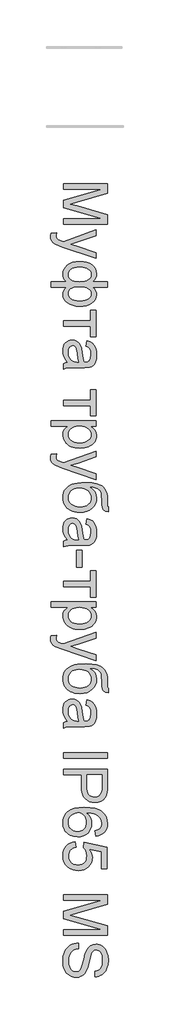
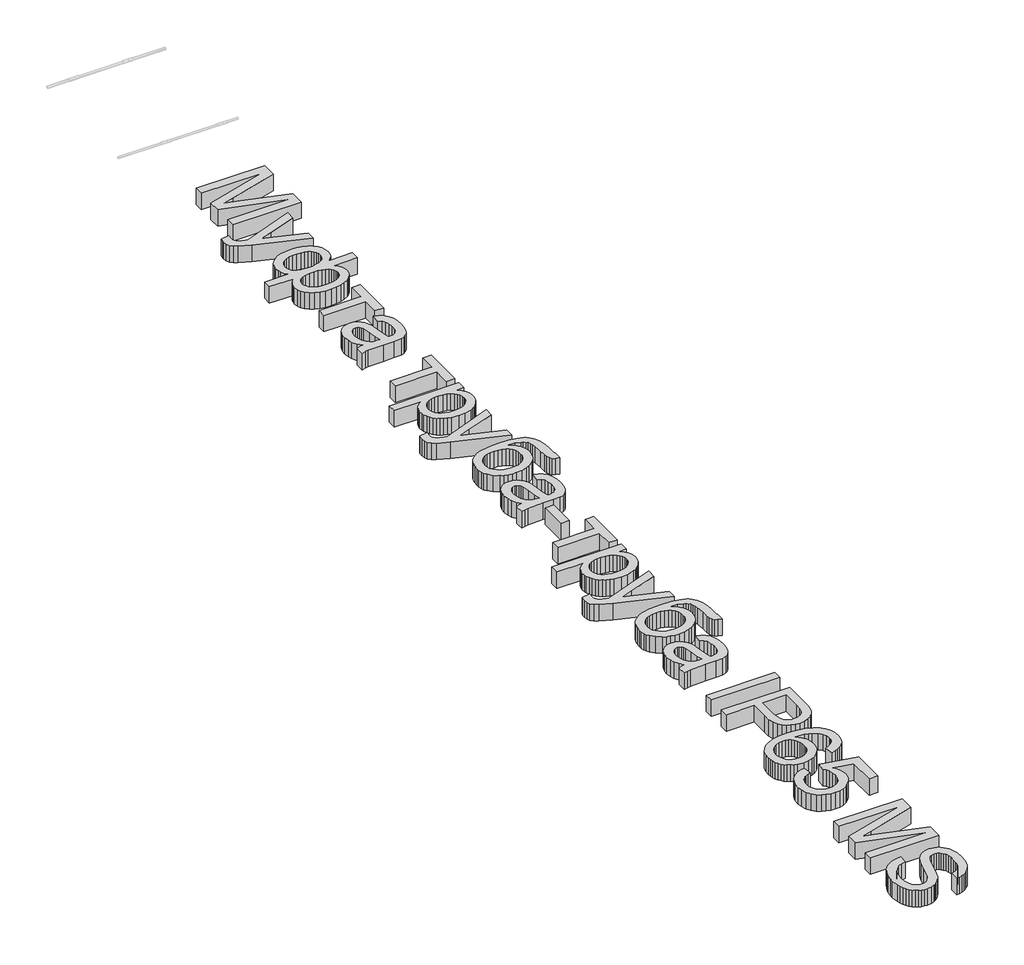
# One storey, part 16 of 33: 1 proxy.
"""IFC4 building model written with IfcOpenShell, lengths in millimetres."""

import ifcopenshell
import ifcopenshell.guid

model = None  # the IFC model being written
_history = None  # IfcOwnerHistory: only IFC2X3 demands one
_inside = {}  # id of a spatial element -> (the spatial element, [elements in it])
_under = {}  # id of a project, library or spatial element -> (it, [spatial elements below it])
_declared = {}  # id of a project -> (the project, [libraries it declares])
_typed = {}  # id of a type object -> (the type object, [elements of that type])
_made_of = {}  # id of a material, layer set ... -> (it, [elements and type objects made of it])


def new_model(schema):
    """Start an empty IFC model of exactly this schema.

    Asked for "IFC4X3", IfcOpenShell would pick the latest addendum, in which some entities
    have other attributes; the version numbers below select the first issue.
    IFC2X3 requires an IfcOwnerHistory on every rooted entity: one is made here for all.
    """
    global model, _history
    if schema == "IFC4X3":
        model = ifcopenshell.file(schema_version=(4, 3, 0, 0))
    else:
        model = ifcopenshell.file(schema=schema)
    _inside.clear()
    _under.clear()
    _declared.clear()
    _typed.clear()
    _made_of.clear()
    _history = None
    if model.schema == "IFC2X3":
        org = make("IfcOrganization", Name="unknown")
        user = make(
            "IfcPersonAndOrganization",
            ThePerson=make("IfcPerson", FamilyName="unknown"),
            TheOrganization=org,
        )
        app = make(
            "IfcApplication",
            ApplicationDeveloper=org,
            Version="unknown",
            ApplicationFullName="unknown",
            ApplicationIdentifier="unknown",
        )
        _history = make(
            "IfcOwnerHistory",
            OwningUser=user,
            OwningApplication=app,
            ChangeAction="ADDED",
            CreationDate=0,
        )
    return model


def make(cls, **values):
    """One entity of the class cls with the attributes given. An attribute that is None is left unset."""
    return model.create_entity(
        cls, **{name: value for name, value in values.items() if value is not None}
    )


def rooted(cls, **values):
    """An entity with a GlobalId (a new one), such as an element, a storey or a relation."""
    return make(cls, GlobalId=ifcopenshell.guid.new(), OwnerHistory=_history, **values)


def si_unit(unit_type, name, prefix=None):
    """IfcSIUnit, for example si_unit("LENGTHUNIT", "METRE", prefix="MILLI")."""
    return make("IfcSIUnit", UnitType=unit_type, Prefix=prefix, Name=name)


def assignment(units):
    """IfcUnitAssignment: the units of a project."""
    return None if units is None else make("IfcUnitAssignment", Units=units)


def point(xyz):
    """IfcCartesianPoint."""
    return None if xyz is None else make("IfcCartesianPoint", Coordinates=xyz)


def direction(xyz):
    """IfcDirection."""
    return None if xyz is None else make("IfcDirection", DirectionRatios=xyz)


def frame(location, z_axis=None, x_axis=None):
    """IfcAxis2Placement3D, a coordinate frame: its origin and axes. An axis left out is left unset."""
    return make(
        "IfcAxis2Placement3D",
        Location=point(location),
        Axis=direction(z_axis),
        RefDirection=direction(x_axis),
    )


def origin():
    """The frame at (0, 0, 0) with its axes left unset."""
    return frame((0.0, 0.0, 0.0))


def origin_with_axes():
    """The frame at (0, 0, 0) with the z axis (0, 0, 1) and the x axis (1, 0, 0) written out."""
    return frame((0.0, 0.0, 0.0), z_axis=(0.0, 0.0, 1.0), x_axis=(1.0, 0.0, 0.0))


def place(relative_to, where):
    """IfcLocalPlacement: puts the frame where relative to a parent placement (None: the world)."""
    return make(
        "IfcLocalPlacement", PlacementRelTo=relative_to, RelativePlacement=where
    )


def context(
    kind, dimensions, precision=None, world=None, true_north=None, identifier=None
):
    """IfcGeometricRepresentationContext, for example the 3D "Model" context."""
    return make(
        "IfcGeometricRepresentationContext",
        ContextIdentifier=identifier,
        ContextType=kind,
        CoordinateSpaceDimension=dimensions,
        Precision=precision,
        WorldCoordinateSystem=world,
        TrueNorth=true_north,
    )


def project(units=None, contexts=None):
    """IfcProject with its units and contexts."""
    return rooted(
        "IfcProject",
        Name="project",
        RepresentationContexts=contexts,
        UnitsInContext=assignment(units),
    )


def spatial(cls, under=None, at=None, **own):
    """A site, building, storey or space (cls), placed at a placement, below another one or the project."""
    s = rooted(cls, ObjectPlacement=at, **own)
    if under is not None:
        _under.setdefault(under.id(), (under, []))[1].append(s)
    return s


def polyline(points):
    """IfcPolyline through the points."""
    return make("IfcPolyline", Points=[point(p) for p in points])


def outline(outer, holes=None, kind="AREA"):
    """IfcArbitraryClosedProfileDef: a profile drawn as a closed curve; with holes, ...WithVoids."""
    if holes is None:
        return make("IfcArbitraryClosedProfileDef", ProfileType=kind, OuterCurve=outer)
    return make(
        "IfcArbitraryProfileDefWithVoids",
        ProfileType=kind,
        OuterCurve=outer,
        InnerCurves=holes,
    )


def extrude(swept, where, along, depth):
    """IfcExtrudedAreaSolid: the profile swept, set in the frame where, extruded along a direction by depth."""
    return make(
        "IfcExtrudedAreaSolid",
        SweptArea=swept,
        Position=where,
        ExtrudedDirection=direction(along),
        Depth=depth,
    )


def shape(context_of_items, identifier, shape_type, items):
    """IfcShapeRepresentation: the items that make up one representation, for example the "Body"."""
    return make(
        "IfcShapeRepresentation",
        ContextOfItems=context_of_items,
        RepresentationIdentifier=identifier,
        RepresentationType=shape_type,
        Items=items,
    )


def made_of(thing, what):
    """Note that an element or type object is made of a material, layer set ...; save() writes the relation."""
    if what is not None:
        _made_of.setdefault(what.id(), (what, []))[1].append(thing)
    return thing


def element(
    cls,
    number,
    at=None,
    inside=None,
    cuts=None,
    type_object=None,
    material=None,
    context=None,
    identifier="Body",
    shape_type=None,
    held_by="IfcProductDefinitionShape",
    body=None,
    shapes=None,
    **own,
):
    """One element of the class cls, such as IfcWall. Its Tag is "e" and its number.

    at: its placement. inside: the storey or other place that contains it. cuts: it is an
    opening in that element (IfcRelVoidsElement). A single representation is given by context,
    identifier, shape_type and body (its items); several are given by shapes. held_by: the class
    of the entity that holds the representations. save() writes the other relations.
    """
    e = rooted(cls, Tag="e%d" % number, ObjectPlacement=at, **own)
    if body is not None:
        shapes = [shape(context, identifier, shape_type, body)]
    if shapes is not None:
        e.Representation = make(held_by, Representations=shapes)
    if inside is not None:
        _inside.setdefault(inside.id(), (inside, []))[1].append(e)
    if cuts is not None:
        rooted(
            "IfcRelVoidsElement", RelatingBuildingElement=cuts, RelatedOpeningElement=e
        )
    if type_object is not None:
        _typed.setdefault(type_object.id(), (type_object, []))[1].append(e)
    return made_of(e, material)


def aggregate(whole, parts):
    """IfcRelAggregates: a whole, such as a stair, and the parts it consists of."""
    return rooted("IfcRelAggregates", RelatingObject=whole, RelatedObjects=parts)


def save(model, path):
    """Write the relations noted so far, then the file.

    IfcRelAggregates (storeys below a building ...), IfcRelContainedInSpatialStructure (elements
    in a storey), IfcRelDefinesByType, IfcRelAssociatesMaterial and IfcRelDeclares: one each for
    every whole, place, type object, material and project.
    """
    for whole, parts in _under.values():
        aggregate(whole, parts)
    for where, things in _inside.values():
        rooted(
            "IfcRelContainedInSpatialStructure",
            RelatedElements=things,
            RelatingStructure=where,
        )
    for kind, things in _typed.values():
        rooted("IfcRelDefinesByType", RelatedObjects=things, RelatingType=kind)
    for what, things in _made_of.values():
        rooted("IfcRelAssociatesMaterial", RelatedObjects=things, RelatingMaterial=what)
    for by, libraries in _declared.values():
        rooted("IfcRelDeclares", RelatingContext=by, RelatedDefinitions=libraries)
    model.write(path)


model = new_model("IFC4")

# Units and contexts
model_context = context("Model", 3, world=origin())
ifc_project = project(units=[si_unit("LENGTHUNIT", "METRE", prefix="MILLI")], contexts=[model_context])

# Site, building, storey
site = spatial("IfcSite", under=ifc_project)
building = spatial("IfcBuilding", under=site)
storey = spatial("IfcBuildingStorey", under=building, Name="Уровень 1", Elevation=0.0)

# Proxy
placement = place(None, origin())
element("IfcBuildingElementProxy", 1, Name="Надпись на модели 1", ObjectType="Надпись на модели 1", at=placement, inside=storey, context=model_context, shape_type="SweptSolid", body=[
    extrude(outline(polyline([(18324.4625724, -797.7209838), (18915.2318032, -797.7209838), (18915.2318032, -924.7882915), (18498.8375724, -1045.6536761), (18411.8664186, -1070.0286761), (18506.0491109, -1096.4229069), (18915.2318032, -1215.2690607), (18915.2318032, -1342.3363684), (18324.4625724, -1342.3363684), (18324.4625724, -1268.4902146), (18841.3856493, -1268.4902146), (18324.4625724, -1120.0767531), (18324.4625724, -1019.9805992), (18841.3856493, -871.5671377), (18324.4625724, -871.5671377), (18324.4625724, -797.7209838)])), origin_with_axes(), (0.0, 0.0, 1.0), 150.0),
    extrude(outline(polyline([(18158.3087262, -1462.3363684), (18229.4144955, -1453.1055992), (18222.9241109, -1490.6055992), (18224.9613705, -1510.3291569), (18231.0731493, -1525.6536761), (18240.8267551, -1537.5887723), (18253.7894955, -1547.1440607), (18308.1644955, -1567.3363684), (18326.0491109, -1573.1055992), (18758.3087262, -1416.1825223), (18758.3087262, -1494.0671377), (18517.4433416, -1577.2882915), (18421.0971878, -1606.2786761), (18506.1933416, -1635.2690607), (18758.3087262, -1720.7979069), (18758.3087262, -1798.1055992), (18314.077957, -1647.0959838), (18217.7318032, -1607.8652146), (18186.9745916, -1587.78108), (18165.6644955, -1565.0286761), (18153.2245916, -1538.5983877), (18149.077957, -1507.4805992), (18151.3856493, -1486.0983877), (18158.3087262, -1462.3363684)])), origin_with_axes(), (0.0, 0.0, 1.0), 150.0),
    extrude(outline(polyline([(18915.2318032, -2108.4902146), (18915.2318032, -2182.3363684), (18716.6260339, -2182.3363684), (18739.0358897, -2204.7462242), (18754.9193032, -2229.2834838), (18764.3844474, -2255.8399742), (18767.5394955, -2284.3075223), (18763.5280772, -2318.4947218), (18751.4938224, -2348.9409357), (18731.4367311, -2375.6461641), (18703.3568032, -2398.6104069), (18669.1921397, -2417.0674381), (18630.8808416, -2430.2510319), (18588.4229089, -2438.1611881), (18541.8183416, -2440.7979069), (18493.4875123, -2437.9583636), (18450.0334859, -2429.4397338), (18411.4562623, -2415.2420175), (18377.7558416, -2395.3652146), (18350.4015748, -2371.2696617), (18330.8628128, -2344.4156954), (18319.1395556, -2314.8033156), (18315.2318032, -2282.4325223), (18317.0346878, -2260.0406954), (18322.4433416, -2237.2882915), (18335.8928609, -2212.0839646), (18361.8183416, -2182.3363684), (18158.3087262, -2182.3363684), (18158.3087262, -2108.4902146), (18361.8183416, -2108.4902146), (18341.4818032, -2086.0262723), (18326.9144955, -2061.3267531), (18318.1524762, -2034.4637723), (18315.2318032, -2005.5094454), (18318.9637743, -1973.5262723), (18330.1596878, -1943.6344454), (18348.8195436, -1915.8339646), (18374.9433416, -1890.12483), (18408.0172599, -1868.5443011), (18447.5274762, -1853.1296377), (18493.4739907, -1843.8808396), (18545.8568032, -1840.7979069), (18591.0461061, -1843.5878708), (18632.4313224, -1851.9577627), (18670.0124522, -1865.9075824), (18703.7894955, -1885.43733), (18731.6801205, -1909.6816208), (18751.6019955, -1937.7750704), (18763.5551205, -1969.7176785), (18767.5394955, -2005.5094454), (18764.3844474, -2035.5995896), (18754.9193032, -2062.6969454), (18739.0358897, -2086.9457434), (18716.6260339, -2108.4902146), (18915.2318032, -2108.4902146)]), holes=[polyline([(18540.0875724, -2181.9036761), (18499.0403969, -2183.4406353), (18465.3219474, -2188.0515127), (18438.9322238, -2195.7363083), (18419.8712262, -2206.4950223), (18406.399171, -2219.570443), (18396.7762743, -2234.2053588), (18391.0025363, -2250.3997699), (18389.077957, -2268.1536761), (18391.4442431, -2287.881741), (18398.5431012, -2306.1043973), (18410.3745315, -2322.8216449), (18426.9385339, -2338.0334838), (18448.4875123, -2350.6852266), (18475.2738705, -2359.7221857), (18507.2976085, -2365.1443612), (18544.5587262, -2366.9517531), (18579.8051205, -2365.2840848), (18610.2558416, -2360.28108), (18635.9108897, -2351.9427386), (18656.7702647, -2340.2690607), (18672.9241109, -2325.9812002), (18684.4625724, -2309.8003107), (18691.3856493, -2291.7263925), (18693.6933416, -2271.7594454), (18691.2909979, -2250.7873901), (18684.0839666, -2232.5827627), (18672.0722479, -2217.1455631), (18655.2558416, -2204.4757915), (18633.6437623, -2194.600491), (18607.2450243, -2187.546705), (18576.0596277, -2183.3144333), (18540.0875724, -2181.9036761)]), polyline([(18547.4433416, -1914.6440607), (18508.2756734, -1916.4920175), (18475.0034378, -1922.0358877), (18447.6266349, -1931.2756713), (18426.1452647, -1944.2113684), (18409.9283176, -1959.8874502), (18398.3447839, -1977.3483877), (18391.3946637, -1996.5941809), (18389.077957, -2017.62483), (18391.3811421, -2039.1107074), (18398.2906974, -2057.702955), (18409.8066229, -2073.4015728), (18425.9289186, -2086.2065607), (18446.6575844, -2096.1449622), (18471.9926205, -2103.2438204), (18501.9340267, -2107.5031353), (18536.4818032, -2108.9229069), (18573.3282575, -2107.4310199), (18605.2618512, -2102.9553588), (18632.2825844, -2095.4959237), (18654.390457, -2085.0527146), (18671.585469, -2071.5986881), (18683.8676205, -2055.1068011), (18691.2369113, -2035.5770535), (18693.6933416, -2013.0094454), (18691.2955051, -1992.2402146), (18684.1019955, -1973.4902146), (18672.1128128, -1956.7594454), (18655.327957, -1942.0479069), (18634.1981493, -1930.0587242), (18609.1741109, -1921.4950223), (18580.2558416, -1916.3568011), (18547.4433416, -1914.6440607)])]), origin_with_axes(), (0.0, 0.0, 1.0), 150.0),
    extrude(outline(polyline([(18758.3087262, -2496.1825223), (18758.3087262, -2846.9517531), (18684.4625724, -2846.9517531), (18684.4625724, -2708.4902146), (18324.4625724, -2708.4902146), (18324.4625724, -2634.6440607), (18684.4625724, -2634.6440607), (18684.4625724, -2496.1825223), (18758.3087262, -2496.1825223)])), origin_with_axes(), (0.0, 0.0, 1.0), 150.0),
    extrude(outline(polyline([(18379.8471878, -3188.4902146), (18349.5947839, -3153.2077627), (18329.7991109, -3116.8796377), (18318.8736301, -3078.6765127), (18315.2318032, -3037.7690607), (18317.422308, -3004.8889526), (18323.9938224, -2976.0563204), (18334.9463464, -2951.2711641), (18350.2798801, -2930.5334838), (18369.0208657, -2914.1587843), (18390.1957455, -2902.4625704), (18413.8045195, -2895.444842), (18439.8471878, -2893.1055992), (18470.4601686, -2896.6392531), (18498.2606493, -2907.2402146), (18522.0587262, -2923.5923781), (18540.6644955, -2944.3796377), (18554.7269955, -2968.8087242), (18564.8952647, -2996.0863684), (18576.0010339, -3059.9805992), (18587.6837262, -3135.4854069), (18601.3856493, -3188.0575223), (18617.827957, -3188.4902146), (18650.7846878, -3183.40608), (18662.9902166, -3177.0509117), (18672.3471878, -3168.1536761), (18681.6861301, -3152.7750704), (18688.3568032, -3134.0430992), (18693.6933416, -3086.5190607), (18690.1416589, -3042.5286761), (18679.4866109, -3011.8075223), (18659.781082, -2990.8580031), (18629.077957, -2976.1825223), (18638.3087262, -2902.3363684), (18678.6933416, -2915.1548781), (18710.4241109, -2934.2834838), (18734.6909378, -2961.5070415), (18752.6837262, -2998.6104069), (18763.8255532, -3043.9890127), (18767.5394955, -3096.0382915), (18764.2582455, -3145.9601665), (18754.4144955, -3185.5334838), (18739.6128128, -3215.3712242), (18721.4577647, -3236.0863684), (18699.0118512, -3249.8243492), (18671.3375724, -3258.7305992), (18606.7221878, -3262.3363684), (18514.8471878, -3262.3363684), (18386.5539186, -3266.0863684), (18354.8411782, -3271.6392531), (18324.4625724, -3280.7979069), (18324.4625724, -3206.9517531), (18350.1356493, -3195.12483), (18379.8471878, -3188.4902146)]), holes=[polyline([(18527.5394955, -3188.4902146), (18515.2438224, -3138.87483), (18504.8952647, -3069.3555992), (18492.9241109, -3005.8219454), (18484.7390147, -2989.2894934), (18473.452957, -2977.0479069), (18459.9313224, -2969.4757915), (18445.0394955, -2966.9517531), (18423.0803609, -2972.4505511), (18405.0875724, -2988.9469454), (18393.0803609, -3016.0803588), (18389.077957, -3053.4902146), (18393.4950243, -3093.1536761), (18406.7462262, -3128.2017531), (18426.2714666, -3156.6152146), (18449.5106493, -3176.37483), (18473.452957, -3185.1368492), (18506.6260339, -3188.0575223), (18527.5394955, -3188.4902146)])]), origin_with_axes(), (0.0, 0.0, 1.0), 150.0),
    extrude(outline(polyline([(18758.3087262, -3557.7209838), (18758.3087262, -3908.4902146), (18684.4625724, -3908.4902146), (18684.4625724, -3770.0286761), (18324.4625724, -3770.0286761), (18324.4625724, -3696.1825223), (18684.4625724, -3696.1825223), (18684.4625724, -3557.7209838), (18758.3087262, -3557.7209838)])), origin_with_axes(), (0.0, 0.0, 1.0), 150.0),
    extrude(outline(polyline([(18158.3087262, -3973.1055992), (18758.3087262, -3973.1055992), (18758.3087262, -4046.9517531), (18685.9048801, -4046.9517531), (18721.6200243, -4071.0382915), (18747.1308416, -4098.0094454), (18762.437332, -4129.4517531), (18767.5394955, -4166.9517531), (18765.7546397, -4192.7059598), (18760.4000724, -4216.8916569), (18751.4757936, -4239.5088444), (18738.9818032, -4260.5575223), (18723.2426205, -4279.577955), (18704.5827647, -4296.1104069), (18683.0022359, -4310.1548781), (18658.5010339, -4321.7113684), (18604.0899762, -4337.1801184), (18544.702957, -4342.3363684), (18481.5479089, -4336.5130511), (18452.4718873, -4329.2339045), (18425.0635339, -4319.0430992), (18400.0394955, -4306.0803588), (18378.1164186, -4290.4854069), (18359.2943032, -4272.2582434), (18343.5731493, -4251.3988684), (18331.1738104, -4228.9304189), (18322.3171397, -4205.8760319), (18317.0031373, -4182.2357074), (18315.2318032, -4158.0094454), (18319.9733897, -4124.0611281), (18334.1981493, -4093.7546377), (18355.6705051, -4067.8111281), (18382.1548801, -4046.9517531), (18158.3087262, -4046.9517531), (18158.3087262, -3973.1055992)]), holes=[polyline([(18537.9241109, -4046.9517531), (18502.3351686, -4048.9484478), (18471.7221878, -4054.9385319), (18446.0851686, -4064.9220055), (18425.4241109, -4078.8988684), (18409.5226686, -4095.7242891), (18398.1644955, -4114.2534357), (18391.3495916, -4134.4863083), (18389.077957, -4156.4229069), (18391.4307214, -4178.6750103), (18398.4890147, -4199.2774742), (18410.2528368, -4218.2302987), (18426.7221878, -4235.5334838), (18448.1314426, -4249.9520535), (18474.7149762, -4260.2510319), (18506.4727887, -4266.4304189), (18543.4048801, -4268.4902146), (18578.687332, -4266.4799982), (18609.2462262, -4260.4493492), (18635.0815628, -4250.3982675), (18656.1933416, -4236.3267531), (18672.5995916, -4219.4607675), (18684.3183416, -4201.0262723), (18691.3495916, -4181.0232675), (18693.6933416, -4159.4517531), (18691.2008537, -4137.9478468), (18683.7233897, -4117.7149742), (18671.2609498, -4098.7531353), (18653.8135339, -4081.06233), (18631.6155171, -4066.1389526), (18604.9012743, -4055.4793973), (18573.6708056, -4049.0836641), (18537.9241109, -4046.9517531)])]), origin_with_axes(), (0.0, 0.0, 1.0), 150.0),
    extrude(outline(polyline([(18158.3087262, -4425.4132915), (18229.4144955, -4416.1825223), (18222.9241109, -4453.6825223), (18224.9613705, -4473.40608), (18231.0731493, -4488.7305992), (18240.8267551, -4500.6656954), (18253.7894955, -4510.2209838), (18308.1644955, -4530.4132915), (18326.0491109, -4536.1825223), (18758.3087262, -4379.2594454), (18758.3087262, -4457.1440607), (18517.4433416, -4540.3652146), (18421.0971878, -4569.3555992), (18506.1933416, -4598.3459838), (18758.3087262, -4683.87483), (18758.3087262, -4761.1825223), (18314.077957, -4610.1729069), (18217.7318032, -4570.9421377), (18186.9745916, -4550.8580031), (18165.6644955, -4528.1055992), (18153.2245916, -4501.6753107), (18149.077957, -4470.5575223), (18151.3856493, -4449.1753107), (18158.3087262, -4425.4132915)])), origin_with_axes(), (0.0, 0.0, 1.0), 150.0),
    extrude(outline(polyline([(18924.4625724, -5126.9517531), (18924.4625724, -5191.5671377), (18889.3604089, -5184.5719454), (18866.8423801, -5172.5286761), (18853.5190628, -5155.8339646), (18846.0010339, -5134.8844454), (18842.5394955, -5100.7378107), (18841.3856493, -5044.4517531), (18837.1308416, -4969.3616088), (18831.812332, -4942.4580631), (18824.3664186, -4922.6488684), (18814.5767551, -4907.5316809), (18802.2269955, -4894.7041569), (18787.3171397, -4884.1662963), (18769.8471878, -4875.9180992), (18726.9745916, -4864.8664165), (18673.3568032, -4860.12483), (18714.6068032, -4889.8183396), (18744.0298801, -4924.0911761), (18761.6620916, -4962.9793973), (18767.5394955, -5006.5190607), (18763.8030171, -5046.7504309), (18752.593582, -5083.3580031), (18733.9111902, -5116.3417771), (18707.7558416, -5145.7017531), (18675.227296, -5169.8063204), (18637.4253128, -5187.0238684), (18594.3498921, -5197.3543973), (18546.0010339, -5200.7979069), (18509.0148561, -5199.0896737), (18475.5082455, -5193.9649742), (18445.4812022, -5185.4238083), (18418.9337262, -5173.4661761), (18374.9613705, -5143.5923781), (18342.2750724, -5108.6344454), (18330.4436421, -5088.1897338), (18321.9926205, -5064.3555992), (18316.9220075, -5037.1320415), (18315.2318032, -5006.5190607), (18317.4087863, -4971.1058997), (18323.9397359, -4939.8664165), (18334.8246517, -4912.8006112), (18350.0635339, -4889.9084838), (18368.6963464, -4870.3156353), (18389.7630532, -4853.1476665), (18413.2636541, -4838.4045776), (18439.1981493, -4826.0863684), (18471.3841469, -4816.3688204), (18513.6392551, -4809.4277146), (18565.9634738, -4805.2630511), (18628.3568032, -4803.87483), (18706.1107094, -4807.3769333), (18770.0455051, -4817.8832434), (18820.1611902, -4835.3937603), (18840.0368663, -4846.7755962), (18856.4577647, -4859.9084838), (18882.1714065, -4891.6888324), (18900.5382936, -4930.9962242), (18911.5584258, -4977.8306593), (18915.2318032, -5032.1921377), (18916.890457, -5114.4036761), (18919.6128128, -5122.4445415), (18924.4625724, -5126.9517531)]), holes=[polyline([(18548.3087262, -5126.9517531), (18578.8090267, -5124.9505511), (18606.4156974, -5118.9469454), (18631.1287383, -5108.9409357), (18652.9481493, -5094.9325223), (18670.774171, -5077.2822819), (18683.5070436, -5056.3507915), (18691.1467671, -5032.1380511), (18693.6933416, -5004.6440607), (18691.0025363, -4975.9511521), (18682.9301205, -4950.7378107), (18669.476094, -4929.0040367), (18650.640457, -4910.74983), (18627.3066229, -4896.2997098), (18600.3580051, -4885.9781954), (18569.7946037, -4879.7852867), (18535.6164186, -4877.7209838), (18502.1503729, -4880.0016329), (18472.8580051, -4886.84358), (18447.7393152, -4898.2468252), (18426.7943032, -4914.2113684), (18410.2934017, -4933.5202627), (18398.5070436, -4954.9565607), (18391.4352287, -4978.5202627), (18389.077957, -5004.2113684), (18391.80482, -5030.2540367), (18399.9854089, -5053.71858), (18413.6197238, -5074.6049982), (18432.7077647, -5092.9132915), (18456.2940027, -5107.8051184), (18483.4229089, -5118.4421377), (18514.0944835, -5124.8243492), (18548.3087262, -5126.9517531)])]), origin_with_axes(), (0.0, 0.0, 1.0), 150.0),
    extrude(outline(polyline([(18379.8471878, -5570.0286761), (18349.5947839, -5534.7462242), (18329.7991109, -5498.4180992), (18318.8736301, -5460.2149742), (18315.2318032, -5419.3075223), (18317.422308, -5386.4274141), (18323.9938224, -5357.5947819), (18334.9463464, -5332.8096256), (18350.2798801, -5312.0719454), (18369.0208657, -5295.6972458), (18390.1957455, -5284.0010319), (18413.8045195, -5276.9833035), (18439.8471878, -5274.6440607), (18470.4601686, -5278.1777146), (18498.2606493, -5288.7786761), (18522.0587262, -5305.1308396), (18540.6644955, -5325.9180992), (18554.7269955, -5350.3471857), (18564.8952647, -5377.62483), (18576.0010339, -5441.5190607), (18587.6837262, -5517.0238684), (18601.3856493, -5569.5959838), (18617.827957, -5570.0286761), (18650.7846878, -5564.9445415), (18662.9902166, -5558.5893732), (18672.3471878, -5549.6921377), (18681.6861301, -5534.3135319), (18688.3568032, -5515.5815607), (18693.6933416, -5468.0575223), (18690.1416589, -5424.0671377), (18679.4866109, -5393.3459838), (18659.781082, -5372.3964646), (18629.077957, -5357.7209838), (18638.3087262, -5283.87483), (18678.6933416, -5296.6933396), (18710.4241109, -5315.8219454), (18734.6909378, -5343.0455031), (18752.6837262, -5380.1488684), (18763.8255532, -5425.5274742), (18767.5394955, -5477.5767531), (18764.2582455, -5527.4986281), (18754.4144955, -5567.0719454), (18739.6128128, -5596.9096857), (18721.4577647, -5617.62483), (18699.0118512, -5631.3628107), (18671.3375724, -5640.2690607), (18606.7221878, -5643.87483), (18514.8471878, -5643.87483), (18386.5539186, -5647.62483), (18354.8411782, -5653.1777146), (18324.4625724, -5662.3363684), (18324.4625724, -5588.4902146), (18350.1356493, -5576.6632915), (18379.8471878, -5570.0286761)]), holes=[polyline([(18527.5394955, -5570.0286761), (18515.2438224, -5520.4132915), (18504.8952647, -5450.8940607), (18492.9241109, -5387.3604069), (18484.7390147, -5370.827955), (18473.452957, -5358.5863684), (18459.9313224, -5351.0142531), (18445.0394955, -5348.4902146), (18423.0803609, -5353.9890127), (18405.0875724, -5370.4854069), (18393.0803609, -5397.6188204), (18389.077957, -5435.0286761), (18393.4950243, -5474.6921377), (18406.7462262, -5509.7402146), (18426.2714666, -5538.1536761), (18449.5106493, -5557.9132915), (18473.452957, -5566.6753107), (18506.6260339, -5569.5959838), (18527.5394955, -5570.0286761)])]), origin_with_axes(), (0.0, 0.0, 1.0), 150.0),
    extrude(outline(polyline([(18499.8471878, -5708.4902146), (18573.6933416, -5708.4902146), (18573.6933416, -5939.2594454), (18499.8471878, -5939.2594454), (18499.8471878, -5708.4902146)])), origin_with_axes(), (0.0, 0.0, 1.0), 150.0),
    extrude(outline(polyline([(18758.3087262, -5985.4132915), (18758.3087262, -6336.1825223), (18684.4625724, -6336.1825223), (18684.4625724, -6197.7209838), (18324.4625724, -6197.7209838), (18324.4625724, -6123.87483), (18684.4625724, -6123.87483), (18684.4625724, -5985.4132915), (18758.3087262, -5985.4132915)])), origin_with_axes(), (0.0, 0.0, 1.0), 150.0),
    extrude(outline(polyline([(18158.3087262, -6400.7979069), (18758.3087262, -6400.7979069), (18758.3087262, -6474.6440607), (18685.9048801, -6474.6440607), (18721.6200243, -6498.7305992), (18747.1308416, -6525.7017531), (18762.437332, -6557.1440607), (18767.5394955, -6594.6440607), (18765.7546397, -6620.3982675), (18760.4000724, -6644.5839646), (18751.4757936, -6667.2011521), (18738.9818032, -6688.24983), (18723.2426205, -6707.2702627), (18704.5827647, -6723.8027146), (18683.0022359, -6737.8471857), (18658.5010339, -6749.4036761), (18604.0899762, -6764.8724261), (18544.702957, -6770.0286761), (18481.5479089, -6764.2053588), (18452.4718873, -6756.9262122), (18425.0635339, -6746.7354069), (18400.0394955, -6733.7726665), (18378.1164186, -6718.1777146), (18359.2943032, -6699.9505511), (18343.5731493, -6679.0911761), (18331.1738104, -6656.6227266), (18322.3171397, -6633.5683396), (18317.0031373, -6609.9280151), (18315.2318032, -6585.7017531), (18319.9733897, -6551.7534357), (18334.1981493, -6521.4469454), (18355.6705051, -6495.5034357), (18382.1548801, -6474.6440607), (18158.3087262, -6474.6440607), (18158.3087262, -6400.7979069)]), holes=[polyline([(18537.9241109, -6474.6440607), (18502.3351686, -6476.6407555), (18471.7221878, -6482.6308396), (18446.0851686, -6492.6143131), (18425.4241109, -6506.5911761), (18409.5226686, -6523.4165968), (18398.1644955, -6541.9457434), (18391.3495916, -6562.178616), (18389.077957, -6584.1152146), (18391.4307214, -6606.367318), (18398.4890147, -6626.9697819), (18410.2528368, -6645.9226064), (18426.7221878, -6663.2257915), (18448.1314426, -6677.6443612), (18474.7149762, -6687.9433396), (18506.4727887, -6694.1227266), (18543.4048801, -6696.1825223), (18578.687332, -6694.1723059), (18609.2462262, -6688.1416569), (18635.0815628, -6678.0905752), (18656.1933416, -6664.0190607), (18672.5995916, -6647.1530752), (18684.3183416, -6628.71858), (18691.3495916, -6608.7155752), (18693.6933416, -6587.1440607), (18691.2008537, -6565.6401545), (18683.7233897, -6545.4072819), (18671.2609498, -6526.445443), (18653.8135339, -6508.7546377), (18631.6155171, -6493.8312603), (18604.9012743, -6483.171705), (18573.6708056, -6476.7759718), (18537.9241109, -6474.6440607)])]), origin_with_axes(), (0.0, 0.0, 1.0), 150.0),
    extrude(outline(polyline([(18158.3087262, -6853.1055992), (18229.4144955, -6843.87483), (18222.9241109, -6881.37483), (18224.9613705, -6901.0983877), (18231.0731493, -6916.4229069), (18240.8267551, -6928.3580031), (18253.7894955, -6937.9132915), (18308.1644955, -6958.1055992), (18326.0491109, -6963.87483), (18758.3087262, -6806.9517531), (18758.3087262, -6884.8363684), (18517.4433416, -6968.0575223), (18421.0971878, -6997.0479069), (18506.1933416, -7026.0382915), (18758.3087262, -7111.5671377), (18758.3087262, -7188.87483), (18314.077957, -7037.8652146), (18217.7318032, -6998.6344454), (18186.9745916, -6978.5503107), (18165.6644955, -6955.7979069), (18153.2245916, -6929.3676184), (18149.077957, -6898.24983), (18151.3856493, -6876.8676184), (18158.3087262, -6853.1055992)])), origin_with_axes(), (0.0, 0.0, 1.0), 150.0),
    extrude(outline(polyline([(18924.4625724, -7554.6440607), (18924.4625724, -7619.2594454), (18889.3604089, -7612.2642531), (18866.8423801, -7600.2209838), (18853.5190628, -7583.5262723), (18846.0010339, -7562.5767531), (18842.5394955, -7528.4301184), (18841.3856493, -7472.1440607), (18837.1308416, -7397.0539165), (18831.812332, -7370.1503708), (18824.3664186, -7350.3411761), (18814.5767551, -7335.2239886), (18802.2269955, -7322.3964646), (18787.3171397, -7311.858604), (18769.8471878, -7303.6104069), (18726.9745916, -7292.5587242), (18673.3568032, -7287.8171377), (18714.6068032, -7317.5106473), (18744.0298801, -7351.7834838), (18761.6620916, -7390.671705), (18767.5394955, -7434.2113684), (18763.8030171, -7474.4427386), (18752.593582, -7511.0503107), (18733.9111902, -7544.0340848), (18707.7558416, -7573.3940607), (18675.227296, -7597.4986281), (18637.4253128, -7614.7161761), (18594.3498921, -7625.046705), (18546.0010339, -7628.4902146), (18509.0148561, -7626.7819814), (18475.5082455, -7621.6572819), (18445.4812022, -7613.116116), (18418.9337262, -7601.1584838), (18374.9613705, -7571.2846857), (18342.2750724, -7536.3267531), (18330.4436421, -7515.8820415), (18321.9926205, -7492.0479069), (18316.9220075, -7464.8243492), (18315.2318032, -7434.2113684), (18317.4087863, -7398.7982074), (18323.9397359, -7367.5587242), (18334.8246517, -7340.4929189), (18350.0635339, -7317.6007915), (18368.6963464, -7298.007943), (18389.7630532, -7280.8399742), (18413.2636541, -7266.0968853), (18439.1981493, -7253.7786761), (18471.3841469, -7244.0611281), (18513.6392551, -7237.1200223), (18565.9634738, -7232.9553588), (18628.3568032, -7231.5671377), (18706.1107094, -7235.069241), (18770.0455051, -7245.5755511), (18820.1611902, -7263.086068), (18840.0368663, -7274.4679039), (18856.4577647, -7287.6007915), (18882.1714065, -7319.3811401), (18900.5382936, -7358.6885319), (18911.5584258, -7405.522967), (18915.2318032, -7459.8844454), (18916.890457, -7542.0959838), (18919.6128128, -7550.1368492), (18924.4625724, -7554.6440607)]), holes=[polyline([(18548.3087262, -7554.6440607), (18578.8090267, -7552.6428588), (18606.4156974, -7546.6392531), (18631.1287383, -7536.6332434), (18652.9481493, -7522.62483), (18670.774171, -7504.9745896), (18683.5070436, -7484.0430992), (18691.1467671, -7459.8303588), (18693.6933416, -7432.3363684), (18691.0025363, -7403.6434598), (18682.9301205, -7378.4301184), (18669.476094, -7356.6963444), (18650.640457, -7338.4421377), (18627.3066229, -7323.9920175), (18600.3580051, -7313.6705031), (18569.7946037, -7307.4775944), (18535.6164186, -7305.4132915), (18502.1503729, -7307.6939406), (18472.8580051, -7314.5358877), (18447.7393152, -7325.9391329), (18426.7943032, -7341.9036761), (18410.2934017, -7361.2125704), (18398.5070436, -7382.6488684), (18391.4352287, -7406.2125704), (18389.077957, -7431.9036761), (18391.80482, -7457.9463444), (18399.9854089, -7481.4108877), (18413.6197238, -7502.2973059), (18432.7077647, -7520.6055992), (18456.2940027, -7535.4974261), (18483.4229089, -7546.1344454), (18514.0944835, -7552.5166569), (18548.3087262, -7554.6440607)])]), origin_with_axes(), (0.0, 0.0, 1.0), 150.0),
    extrude(outline(polyline([(18379.8471878, -7997.7209838), (18349.5947839, -7962.4385319), (18329.7991109, -7926.1104069), (18318.8736301, -7887.9072819), (18315.2318032, -7846.99983), (18317.422308, -7814.1197218), (18323.9938224, -7785.2870896), (18334.9463464, -7760.5019333), (18350.2798801, -7739.7642531), (18369.0208657, -7723.3895535), (18390.1957455, -7711.6933396), (18413.8045195, -7704.6756112), (18439.8471878, -7702.3363684), (18470.4601686, -7705.8700223), (18498.2606493, -7716.4709838), (18522.0587262, -7732.8231473), (18540.6644955, -7753.6104069), (18554.7269955, -7778.0394934), (18564.8952647, -7805.3171377), (18576.0010339, -7869.2113684), (18587.6837262, -7944.7161761), (18601.3856493, -7997.2882915), (18617.827957, -7997.7209838), (18650.7846878, -7992.6368492), (18662.9902166, -7986.2816809), (18672.3471878, -7977.3844454), (18681.6861301, -7962.0058396), (18688.3568032, -7943.2738684), (18693.6933416, -7895.74983), (18690.1416589, -7851.7594454), (18679.4866109, -7821.0382915), (18659.781082, -7800.0887723), (18629.077957, -7785.4132915), (18638.3087262, -7711.5671377), (18678.6933416, -7724.3856473), (18710.4241109, -7743.5142531), (18734.6909378, -7770.7378107), (18752.6837262, -7807.8411761), (18763.8255532, -7853.2197819), (18767.5394955, -7905.2690607), (18764.2582455, -7955.1909357), (18754.4144955, -7994.7642531), (18739.6128128, -8024.6019934), (18721.4577647, -8045.3171377), (18699.0118512, -8059.0551184), (18671.3375724, -8067.9613684), (18606.7221878, -8071.5671377), (18514.8471878, -8071.5671377), (18386.5539186, -8075.3171377), (18354.8411782, -8080.8700223), (18324.4625724, -8090.0286761), (18324.4625724, -8016.1825223), (18350.1356493, -8004.3555992), (18379.8471878, -7997.7209838)]), holes=[polyline([(18527.5394955, -7997.7209838), (18515.2438224, -7948.1055992), (18504.8952647, -7878.5863684), (18492.9241109, -7815.0527146), (18484.7390147, -7798.5202627), (18473.452957, -7786.2786761), (18459.9313224, -7778.7065607), (18445.0394955, -7776.1825223), (18423.0803609, -7781.6813204), (18405.0875724, -7798.1777146), (18393.0803609, -7825.3111281), (18389.077957, -7862.7209838), (18393.4950243, -7902.3844454), (18406.7462262, -7937.4325223), (18426.2714666, -7965.8459838), (18449.5106493, -7985.6055992), (18473.452957, -7994.3676184), (18506.6260339, -7997.2882915), (18527.5394955, -7997.7209838)])]), origin_with_axes(), (0.0, 0.0, 1.0), 150.0),
    extrude(outline(polyline([(18324.4625724, -8422.3363684), (18915.2318032, -8422.3363684), (18915.2318032, -8496.1825223), (18324.4625724, -8496.1825223), (18324.4625724, -8422.3363684)])), origin_with_axes(), (0.0, 0.0, 1.0), 150.0),
    extrude(outline(polyline([(18324.4625724, -8643.87483), (18915.2318032, -8643.87483), (18915.2318032, -8862.8171377), (18913.8255532, -8913.8027146), (18909.6068032, -8951.0863684), (18899.0959859, -8990.4433396), (18881.9866109, -9022.8411761), (18857.5034378, -9048.9289165), (18824.8712262, -9069.3555992), (18786.3796397, -9082.5527146), (18744.3183416, -9086.9517531), (18708.0533176, -9083.9815006), (18674.6909378, -9075.0707434), (18644.2312022, -9060.2194814), (18616.6741109, -9039.4277146), (18593.8315628, -9010.8835439), (18577.515457, -8972.7750704), (18567.7257936, -8925.1022939), (18564.4625724, -8867.8652146), (18564.4625724, -8717.7209838), (18324.4625724, -8717.7209838), (18324.4625724, -8643.87483)]), holes=[polyline([(18638.3087262, -8717.7209838), (18638.3087262, -8872.1921377), (18640.0034378, -8907.7089646), (18645.0875724, -8937.6729069), (18653.5611301, -8962.0839646), (18665.4241109, -8980.9421377), (18680.3610099, -8995.0136521), (18698.0563224, -9005.0647338), (18718.5100484, -9011.0953829), (18741.7221878, -9013.1055992), (18774.8952647, -9008.3640127), (18802.8760339, -8994.1392531), (18823.9337262, -8972.1981473), (18836.3375724, -8944.3075223), (18840.1236301, -8915.8219454), (18841.3856493, -8870.4613684), (18841.3856493, -8717.7209838), (18638.3087262, -8717.7209838)])]), origin_with_axes(), (0.0, 0.0, 1.0), 150.0),
    extrude(outline(polyline([(18758.3087262, -9539.2594454), (18749.077957, -9465.4132915), (18785.6765147, -9453.5142531), (18810.6644955, -9437.4325223), (18824.1050003, -9421.5581232), (18833.7053609, -9403.9349261), (18839.4655772, -9384.5629309), (18841.3856493, -9363.4421377), (18836.9144955, -9329.1152146), (18823.5010339, -9296.8075223), (18795.249832, -9269.0611281), (18756.3616109, -9246.3988684), (18731.5584258, -9237.5421978), (18701.3556012, -9231.0923781), (18624.7510339, -9225.4132915), (18659.312332, -9255.0346857), (18683.6693032, -9290.5334838), (18698.1104089, -9329.9265127), (18702.9241109, -9371.2305992), (18699.6338464, -9406.7113684), (18689.7630532, -9439.4517531), (18673.3117311, -9469.4517531), (18650.2798801, -9496.7113684), (18622.0376926, -9519.3646136), (18589.9553609, -9535.5455031), (18554.0328849, -9545.2540367), (18514.2702647, -9548.4902146), (18461.3916589, -9542.3964646), (18436.399171, -9534.7792771), (18412.3712262, -9524.1152146), (18390.2047599, -9510.7828829), (18370.796707, -9495.1608877), (18354.1470676, -9477.249229), (18340.2558416, -9457.0479069), (18329.3078248, -9434.9896136), (18321.4878128, -9411.5070415), (18316.7958056, -9386.6001906), (18315.2318032, -9360.2690607), (18319.3784378, -9316.2471256), (18331.8183416, -9276.4890127), (18352.5515147, -9240.9947218), (18381.577957, -9209.7642531), (18420.1236301, -9184.3030151), (18469.4144955, -9166.1164165), (18529.4505532, -9155.2044574), (18600.2318032, -9151.5671377), (18679.5857695, -9155.6055992), (18747.3111301, -9167.7209838), (18803.4078849, -9187.9132915), (18827.0955351, -9201.0382915), (18847.8760339, -9216.1825223), (18877.344183, -9246.8225463), (18898.3928609, -9282.3483877), (18911.0220676, -9322.7600463), (18915.2318032, -9368.0575223), (18912.6266349, -9402.0689406), (18904.8111301, -9432.8531954), (18891.7852887, -9460.4102867), (18873.5491109, -9484.7402146), (18850.7155772, -9505.1849261), (18823.8976686, -9521.0863684), (18793.0953849, -9532.4445415), (18758.3087262, -9539.2594454)]), holes=[polyline([(18515.4241109, -9225.4132915), (18482.7017551, -9229.6861281), (18451.4577647, -9242.5046377), (18424.5947839, -9262.4084838), (18405.015457, -9287.93733), (18393.062332, -9318.7486281), (18389.077957, -9354.49983), (18391.1422599, -9380.1683997), (18397.3351686, -9403.2318011), (18407.656683, -9423.6900343), (18422.1068032, -9441.5430992), (18440.0995916, -9456.0247699), (18461.0491109, -9466.3688204), (18484.9553609, -9472.5752506), (18511.8183416, -9474.6440607), (18537.6311421, -9472.6022939), (18560.5503128, -9466.4769934), (18580.5758537, -9456.2681593), (18597.7077647, -9441.9757915), (18611.4322238, -9424.0686401), (18621.2354089, -9403.015455), (18627.11732, -9378.8162362), (18629.077957, -9351.4709838), (18627.11732, -9326.1449622), (18621.2354089, -9302.8111281), (18611.4322238, -9281.4694814), (18597.7077647, -9262.1200223), (18580.8012142, -9246.0608276), (18561.4517551, -9234.5899742), (18539.6593873, -9227.7074622), (18515.4241109, -9225.4132915)])]), origin_with_axes(), (0.0, 0.0, 1.0), 150.0),
    extrude(outline(polyline([(18481.3856493, -9613.1055992), (18490.6164186, -9686.9517531), (18466.8769354, -9692.46858), (18446.2834859, -9700.5094454), (18428.83607, -9711.0743492), (18414.5346878, -9724.1632915), (18403.3973681, -9739.749229), (18395.4421397, -9757.8051184), (18390.6690027, -9778.3309598), (18389.077957, -9801.3267531), (18391.2909979, -9829.4517531), (18397.9301205, -9854.2594454), (18408.9953248, -9875.74983), (18424.4866109, -9893.9229069), (18443.6377527, -9908.3730271), (18465.6825243, -9918.6945415), (18490.6209258, -9924.8874502), (18518.452957, -9926.9517531), (18544.7570436, -9925.0181593), (18568.140457, -9919.2173781), (18588.6031974, -9909.5494093), (18606.1452647, -9896.0142531), (18620.2167791, -9878.5668372), (18630.2678609, -9857.1620896), (18636.2985099, -9831.8000103), (18638.3087262, -9802.4805992), (18635.0995916, -9766.6572819), (18625.4721878, -9737.6488684), (18610.7245916, -9714.4818011), (18592.1548801, -9696.1825223), (18601.3856493, -9622.3363684), (18906.0010339, -9686.9517531), (18906.0010339, -9973.1055992), (18832.1548801, -9973.1055992), (18832.1548801, -9746.6632915), (18669.4625724, -9715.0767531), (18688.140457, -9741.1374502), (18701.4818032, -9767.8291569), (18709.4866109, -9795.1518732), (18712.1548801, -9823.1055992), (18708.8465868, -9859.0686401), (18698.921707, -9892.1019934), (18682.3802407, -9922.2056593), (18659.2221878, -9949.3796377), (18630.8628128, -9971.8751305), (18598.7173801, -9987.9433396), (18562.7858897, -9997.5842651), (18523.0683416, -10000.7979069), (18484.8111301, -9997.9042771), (18449.2221878, -9989.2233877), (18416.3015147, -9974.7552386), (18386.0491109, -9954.49983), (18355.0665387, -9923.8147338), (18332.9361301, -9888.0094454), (18319.6578849, -9847.0839646), (18315.2318032, -9801.0382915), (18318.0758537, -9762.929818), (18326.6080051, -9728.5082434), (18340.8282575, -9697.773568), (18360.7366109, -9670.7257915), (18385.3414787, -9648.2212843), (18413.6512743, -9631.1164165), (18445.6659979, -9619.4111881), (18481.3856493, -9613.1055992)])), origin_with_axes(), (0.0, 0.0, 1.0), 150.0),
    extrude(outline(polyline([(18324.4625724, -10323.87483), (18915.2318032, -10323.87483), (18915.2318032, -10450.9421377), (18498.8375724, -10571.8075223), (18411.8664186, -10596.1825223), (18506.0491109, -10622.5767531), (18915.2318032, -10741.4229069), (18915.2318032, -10868.4902146), (18324.4625724, -10868.4902146), (18324.4625724, -10794.6440607), (18841.3856493, -10794.6440607), (18324.4625724, -10646.2305992), (18324.4625724, -10546.1344454), (18841.3856493, -10397.7209838), (18324.4625724, -10397.7209838), (18324.4625724, -10323.87483)])), origin_with_axes(), (0.0, 0.0, 1.0), 150.0),
    extrude(outline(polyline([(18527.5394955, -10970.0286761), (18527.5394955, -11043.87483), (18486.5599282, -11052.3483877), (18453.6212262, -11067.6729069), (18427.4793993, -11091.5791569), (18406.890457, -11125.7979069), (18393.531082, -11167.62483), (18389.077957, -11214.3555992), (18392.4493512, -11255.4974261), (18402.5635339, -11291.5190607), (18418.5731493, -11320.7077627), (18439.6308416, -11341.3507915), (18463.8075243, -11353.6284357), (18489.1741109, -11357.7209838), (18513.8916589, -11354.65608), (18535.2558416, -11345.4613684), (18553.4830051, -11326.7834838), (18568.7894955, -11295.2690607), (18596.9866109, -11187.7450223), (18615.6464666, -11117.1620896), (18633.4048801, -11071.99983), (18658.2486301, -11035.2390127), (18688.3568032, -11009.18733), (18723.0803609, -10993.6644934), (18761.7702647, -10988.4902146), (18783.7609498, -10990.0902747), (18805.0214666, -10994.890455), (18825.5518152, -11002.8907555), (18845.3519955, -11014.0911761), (18863.6152166, -11028.3655151), (18879.5346878, -11045.5875704), (18893.1104089, -11065.757342), (18904.3423801, -11088.87483), (18919.4325243, -11140.8339646), (18924.4625724, -11198.3459838), (18919.1981493, -11260.6536761), (18903.4048801, -11315.1729069), (18891.641058, -11339.0250704), (18877.4072839, -11359.9565607), (18860.703558, -11377.9673781), (18841.5298801, -11393.0575223), (18820.4451445, -11405.1098059), (18798.0082455, -11414.0070415), (18774.219183, -11419.749229), (18749.077957, -11422.3363684), (18749.077957, -11348.4902146), (18772.6416589, -11343.5503107), (18793.140457, -11334.9325223), (18810.5743512, -11322.6368492), (18824.9433416, -11306.6632915), (18836.1753128, -11286.7143732), (18844.1981493, -11262.4926184), (18849.0118512, -11233.9980271), (18850.6164186, -11201.2305992), (18849.0298801, -11167.4174982), (18844.2702647, -11138.5262723), (18836.3375724, -11114.5569213), (18825.2318032, -11095.5094454), (18811.8814426, -11080.9962242), (18797.2149762, -11070.6296377), (18781.2324041, -11064.4096857), (18763.9337262, -11062.3363684), (18735.5563224, -11068.2137723), (18712.7318032, -11085.8459838), (18702.5815628, -11102.0358877), (18692.3231493, -11127.5286761), (18671.4818032, -11206.4229069), (18651.6861301, -11287.8411761), (18634.4144955, -11337.0959838), (18607.6236301, -11379.1933396), (18591.875433, -11395.4688805), (18574.5587262, -11408.56233), (18555.7636541, -11418.6269333), (18535.5803609, -11425.8159357), (18491.0491109, -11431.5671377), (18467.9496517, -11429.912991), (18445.5262743, -11424.9505511), (18423.7789787, -11416.679818), (18402.7077647, -11405.1007915), (18383.1284378, -11390.4162963), (18365.8568032, -11372.8291569), (18350.8928609, -11352.3393732), (18338.2366109, -11328.9469454), (18328.1720075, -11303.3324622), (18320.9830051, -11276.1765127), (18315.2318032, -11217.2402146), (18316.7822839, -11179.4652747), (18321.4337262, -11144.890455), (18329.1861301, -11113.5157555), (18340.0394955, -11085.3411761), (18354.0118512, -11060.195443), (18371.1212262, -11037.9072819), (18391.3676205, -11018.476693), (18414.7510339, -11001.9036761), (18440.5142551, -10988.5533156), (18467.9000724, -10978.7906954), (18496.9084859, -10972.6158156), (18527.5394955, -10970.0286761)])), origin_with_axes(), (0.0, 0.0, 1.0), 150.0),
])

save(model, "model.ifc")
